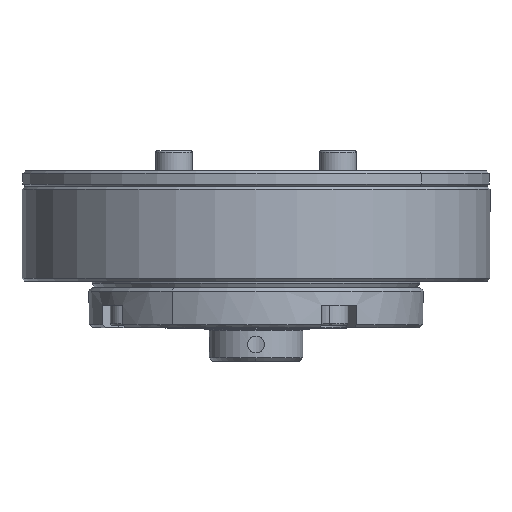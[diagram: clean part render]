
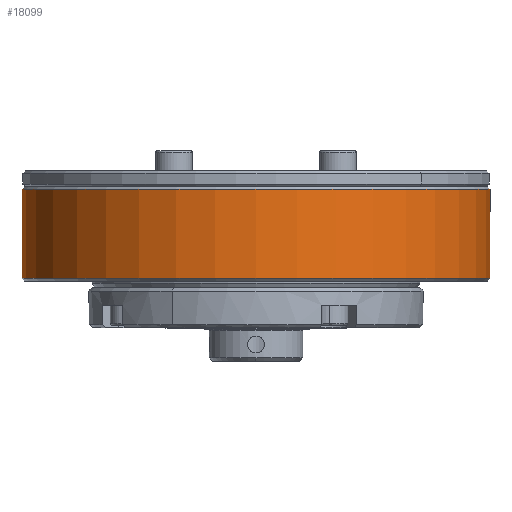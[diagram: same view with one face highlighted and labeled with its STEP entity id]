
A CAD part, front view. The second image highlights one B-rep face of the part: STEP entity #18099.
In plain terms, the highlighted cylindrical face has radius 35 mm (diameter 70 mm), a partial arc.
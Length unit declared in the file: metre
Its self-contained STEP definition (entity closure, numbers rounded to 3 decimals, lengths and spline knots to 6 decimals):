
#2010 = AXIS2_PLACEMENT_3D ( 'NONE', #17805, #19618, #17936 ) ;
#2036 = CARTESIAN_POINT ( 'NONE',  ( -0.035, 0., 0.028392 ) ) ;
#3164 = DIRECTION ( 'NONE',  ( -1., 0., 0. ) ) ;
#3298 = FACE_OUTER_BOUND ( 'NONE', #5387, .T. ) ;
#3556 = AXIS2_PLACEMENT_3D ( 'NONE', #9143, #18986, #3164 ) ;
#5387 = EDGE_LOOP ( 'NONE', ( #15678, #11224, #6104, #23224 ) ) ;
#5489 = EDGE_CURVE ( 'NONE', #23522, #25003, #10685, .T. ) ;
#5692 = CIRCLE ( 'NONE', #9009, 0.035 ) ;
#5950 = LINE ( 'NONE', #2036, #11516 ) ;
#6104 = ORIENTED_EDGE ( 'NONE', *, *, #11410, .T. ) ;
#6878 = CARTESIAN_POINT ( 'NONE',  ( 0.035, 0., 0.00665 ) ) ;
#7787 = EDGE_CURVE ( 'NONE', #11715, #23522, #13221, .T. ) ;
#9009 = AXIS2_PLACEMENT_3D ( 'NONE', #20345, #24522, #14662 ) ;
#9016 = CARTESIAN_POINT ( 'NONE',  ( -0.035, 0., 0.01995 ) ) ;
#9143 = CARTESIAN_POINT ( 'NONE',  ( 0., 0., 0.028392 ) ) ;
#10685 = LINE ( 'NONE', #11067, #13743 ) ;
#11067 = CARTESIAN_POINT ( 'NONE',  ( 0.035, 0., 0.028392 ) ) ;
#11224 = ORIENTED_EDGE ( 'NONE', *, *, #5489, .T. ) ;
#11410 = EDGE_CURVE ( 'NONE', #25003, #18171, #5692, .T. ) ;
#11516 = VECTOR ( 'NONE', #23580, 1. ) ;
#11715 = VERTEX_POINT ( 'NONE', #12401 ) ;
#12401 = CARTESIAN_POINT ( 'NONE',  ( -0.035, 0., 0.00665 ) ) ;
#13221 = CIRCLE ( 'NONE', #2010, 0.035 ) ;
#13743 = VECTOR ( 'NONE', #14712, 1. ) ;
#14662 = DIRECTION ( 'NONE',  ( -1., 0., 0. ) ) ;
#14712 = DIRECTION ( 'NONE',  ( 0., 0., 1. ) ) ;
#15678 = ORIENTED_EDGE ( 'NONE', *, *, #7787, .T. ) ;
#16963 = CARTESIAN_POINT ( 'NONE',  ( 0.035, 0., 0.01995 ) ) ;
#17169 = CYLINDRICAL_SURFACE ( 'NONE', #3556, 0.035 ) ;
#17805 = CARTESIAN_POINT ( 'NONE',  ( 0., 0., 0.00665 ) ) ;
#17936 = DIRECTION ( 'NONE',  ( -1., 0., 0. ) ) ;
#18099 = ADVANCED_FACE ( 'NONE', ( #3298 ), #17169, .T. ) ;
#18171 = VERTEX_POINT ( 'NONE', #9016 ) ;
#18986 = DIRECTION ( 'NONE',  ( 0., 0., 1. ) ) ;
#19618 = DIRECTION ( 'NONE',  ( 0., 0., 1. ) ) ;
#20345 = CARTESIAN_POINT ( 'NONE',  ( 0., 0., 0.01995 ) ) ;
#23224 = ORIENTED_EDGE ( 'NONE', *, *, #24716, .F. ) ;
#23522 = VERTEX_POINT ( 'NONE', #6878 ) ;
#23580 = DIRECTION ( 'NONE',  ( 0., 0., 1. ) ) ;
#24522 = DIRECTION ( 'NONE',  ( 0., 0., -1. ) ) ;
#24716 = EDGE_CURVE ( 'NONE', #11715, #18171, #5950, .T. ) ;
#25003 = VERTEX_POINT ( 'NONE', #16963 ) ;
